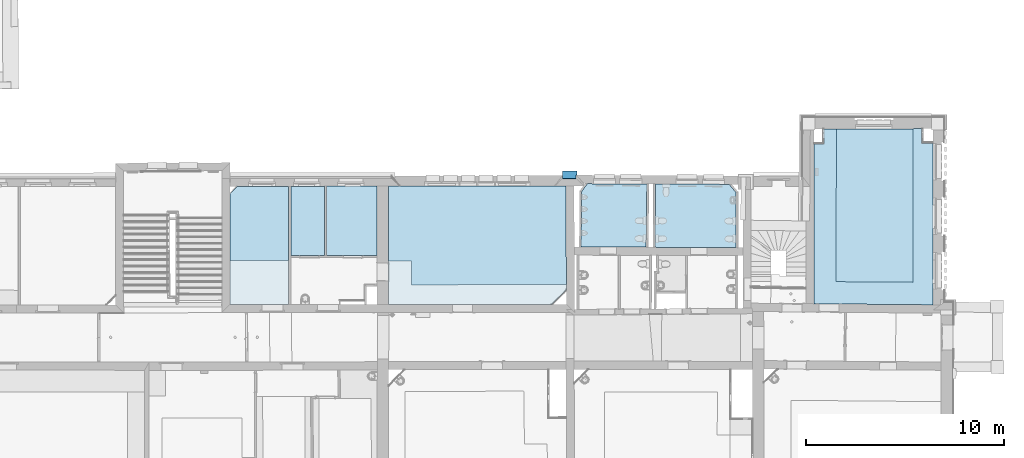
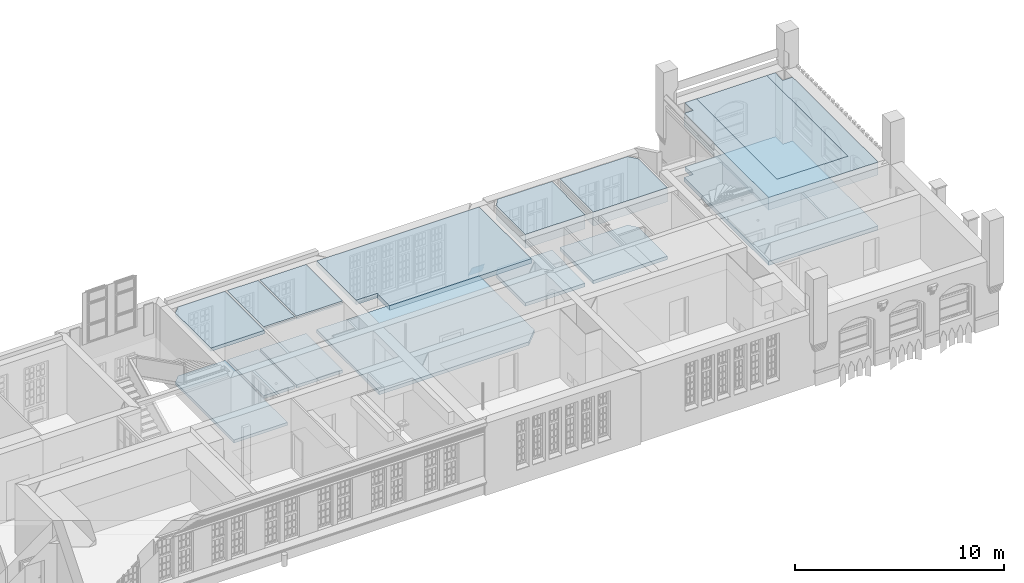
# One storey, part 4 of 90: 16 slabs.
"""IFC2X3 building model written with IfcOpenShell, lengths in metres."""

from ifc_helpers import new_model, entity, si_unit, converted_unit, derived_unit, money_unit, direction, frame, origin_with_axes, place, context, subcontext, project, spatial, polyline, outline, extrude, material, layer, layer_set, layer_usage, type_object, element, save


model = new_model("IFC2X3")

# Units and contexts
model_context = context("Model", 3, precision=1e-05, world=origin_with_axes(), true_north=direction((0.0, 1.0)))
body_context = subcontext(model_context, "Body", "Model", "MODEL_VIEW")
ifc_project = project(units=[si_unit("LENGTHUNIT", "METRE"), si_unit("AREAUNIT", "SQUARE_METRE"), si_unit("VOLUMEUNIT", "CUBIC_METRE"), converted_unit("PLANEANGLEUNIT", "DEGREE", entity("IfcPlaneAngleMeasure", 0.0174532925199), si_unit("PLANEANGLEUNIT", "RADIAN"), dimensions=[0, 0, 0, 0, 0, 0, 0]), money_unit("EUR"), converted_unit("TIMEUNIT", "Year", entity("IfcTimeMeasure", 31556926.0), si_unit("TIMEUNIT", "SECOND"), dimensions=[0, 0, 1, 0, 0, 0, 0]), si_unit("MASSUNIT", "GRAM", prefix="KILO"), si_unit("THERMODYNAMICTEMPERATUREUNIT", "DEGREE_CELSIUS"), si_unit("LUMINOUSINTENSITYUNIT", "LUMEN"), si_unit("ENERGYUNIT", "JOULE", prefix="MEGA"), derived_unit("THERMALCONDUCTANCEUNIT", [(si_unit("POWERUNIT", "WATT"), 1), (si_unit("LENGTHUNIT", "METRE"), -1), (si_unit("THERMODYNAMICTEMPERATUREUNIT", "KELVIN"), -1)]), derived_unit("SPECIFICHEATCAPACITYUNIT", [(si_unit("ENERGYUNIT", "JOULE"), 1), (si_unit("MASSUNIT", "GRAM", prefix="KILO"), -1), (si_unit("THERMODYNAMICTEMPERATUREUNIT", "KELVIN"), -1)]), derived_unit("MASSDENSITYUNIT", [(si_unit("MASSUNIT", "GRAM", prefix="KILO"), 1), (si_unit("VOLUMEUNIT", "CUBIC_METRE"), -1)])], contexts=[model_context])

# Site, building, storey
site_placement = place(None, origin_with_axes())
site = spatial("IfcSite", under=ifc_project, at=site_placement, Name="Gelände", CompositionType="ELEMENT")
building_placement = place(site_placement, origin_with_axes())
building = spatial("IfcBuilding", under=site, at=building_placement, Name="Gebäude", CompositionType="ELEMENT")
storey_placement = place(building_placement, frame((0.0, 0.0, 3.7), z_axis=(0.0, 0.0, 1.0), x_axis=(1.0, 0.0, 0.0)))
storey = spatial("IfcBuildingStorey", under=building, at=storey_placement, Name="1.OBERGESCHOSS", CompositionType="ELEMENT", Elevation=3.7)

# Slabs
ifc_material_1 = material(Name="05_ALLGEMEIN - TRAGENDE BAUTEILE")
ifc_layer_1 = layer(ifc_material_1, 0.17, ventilated="UNKNOWN")
ifc_layer_set_1 = layer_set([ifc_layer_1], Name="05_ALLGEMEIN - TRAGENDE BAUTEILE 0.17")
ifc_layer_usage_1 = layer_usage(ifc_layer_set_1, "AXIS3", "NEGATIVE", 0.17)
slab_type_1 = type_object("IfcSlabType", Name="05_ALLGEMEIN - TRAGENDE BAUTEILE 170", PredefinedType="NOTDEFINED")
slab_1_placement = place(storey_placement, frame((-4.46515546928, 19.6908650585, 0.07), z_axis=(0.0, 0.0, 1.0), x_axis=(1.0, 0.0, 0.0)))
element("IfcSlab", 1, at=slab_1_placement, inside=storey, type_object=slab_type_1, material=ifc_layer_usage_1, Name="Belag-020", PredefinedType="NOTDEFINED", context=body_context, shape_type="SweptSolid", body=[
    extrude(outline(polyline([(0.0, 0.0), (2.95986582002, 0.000861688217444), (2.95854261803, 5.97446660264), (0.366702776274, 5.97085052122), (0.00247306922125, 5.60889197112), (0.0, 0.0)])), frame((0.0, 0.0, -0.17), z_axis=(0.0, 0.0, 1.0), x_axis=(1.0, 0.0, 0.0)), (0.0, 0.0, 1.0), 0.17),
])
ifc_layer_usage_2 = layer_usage(ifc_layer_set_1, "AXIS3", "NEGATIVE", 0.17)
slab_2_placement = place(storey_placement, frame((0.319795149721, 25.6678798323, 0.07), z_axis=(0.0, 0.0, 1.0), x_axis=(1.0, 0.0, 0.0)))
element("IfcSlab", 2, at=slab_2_placement, inside=storey, type_object=slab_type_1, material=ifc_layer_usage_2, Name="Belag-020", PredefinedType="NOTDEFINED", context=body_context, shape_type="SweptSolid", body=[
    extrude(outline(polyline([(0.0, 0.0), (-1.69961350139, -0.00237127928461), (-1.69884021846, -3.49345396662), (0.00280254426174, -3.50044449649), (0.0, 0.0)])), frame((0.0, 0.0, -0.17), z_axis=(0.0, 0.0, 1.0), x_axis=(1.0, 0.0, 0.0)), (0.0, 0.0, 1.0), 0.17),
])
ifc_layer_usage_3 = layer_usage(ifc_layer_set_1, "AXIS3", "NEGATIVE", 0.17)
slab_3_placement = place(storey_placement, frame((2.96848524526, 25.6715752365, 0.07), z_axis=(0.0, 0.0, 1.0), x_axis=(1.0, 0.0, 0.0)))
element("IfcSlab", 3, at=slab_3_placement, inside=storey, type_object=slab_type_1, material=ifc_layer_usage_3, Name="Belag-021", PredefinedType="NOTDEFINED", context=body_context, shape_type="SweptSolid", body=[
    extrude(outline(polyline([(0.0, 0.0), (-2.54869018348, -0.0035558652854), (-2.54588719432, -3.50455070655), (-0.0022443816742, -3.51500025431), (0.0, 0.0)])), frame((0.0, 0.0, -0.17), z_axis=(0.0, 0.0, 1.0), x_axis=(1.0, 0.0, 0.0)), (0.0, 0.0, 1.0), 0.17),
])
ifc_layer_2 = layer(ifc_material_1, 0.2, ventilated="UNKNOWN")
ifc_layer_set_2 = layer_set([ifc_layer_2], Name="05_ALLGEMEIN - TRAGENDE BAUTEILE 0.2")
ifc_layer_usage_4 = layer_usage(ifc_layer_set_2, "AXIS3", "NEGATIVE", 0.2)
slab_type_2 = type_object("IfcSlabType", Name="05_ALLGEMEIN - TRAGENDE BAUTEILE 200", PredefinedType="NOTDEFINED")
slab_4_placement = place(storey_placement, frame((3.55848592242, 25.6723984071, 0.1), z_axis=(0.0, 0.0, 1.0), x_axis=(1.0, 0.0, 0.0)))
element("IfcSlab", 4, at=slab_4_placement, inside=storey, type_object=slab_type_2, material=ifc_layer_usage_4, Name="Belag-030", PredefinedType="NOTDEFINED", context=body_context, shape_type="SweptSolid", body=[
    extrude(outline(polyline([(0.0, 0.0), (-0.00381782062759, -5.97919859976), (8.26676036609, -5.97679088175), (8.99830300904, -5.23943746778), (8.96896032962, 0.0132323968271), (8.39786452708, 0.00934868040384), (8.39786422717, 0.00937935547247), (0.572049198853, -0.00366691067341), (0.568613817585, 0.000793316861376), (0.0, 0.0)])), frame((0.0, 0.0, -0.2), z_axis=(0.0, 0.0, 1.0), x_axis=(1.0, 0.0, 0.0)), (0.0, 0.0, 1.0), 0.2),
])
ifc_layer_usage_5 = layer_usage(ifc_layer_set_2, "AXIS3", "NEGATIVE", 0.2)
slab_5_placement = place(storey_placement, frame((13.3111372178, 25.3829134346, 0.1), z_axis=(0.0, 0.0, 1.0), x_axis=(1.0, 0.0, 0.0)))
element("IfcSlab", 5, at=slab_5_placement, inside=storey, type_object=slab_type_2, material=ifc_layer_usage_5, Name="Belag-031", PredefinedType="NOTDEFINED", context=body_context, shape_type="SweptSolid", body=[
    extrude(outline(polyline([(0.0, 0.0), (-0.00732725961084, -2.78986588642), (3.28042995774, -2.79998548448), (3.31349152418, 0.400551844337), (0.300609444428, 0.412388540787), (0.0, 0.0)])), frame((0.0, 0.0, -0.2), z_axis=(0.0, 0.0, 1.0), x_axis=(1.0, 0.0, 0.0)), (0.0, 0.0, 1.0), 0.2),
])
ifc_layer_usage_6 = layer_usage(ifc_layer_set_2, "AXIS3", "NEGATIVE", 0.2)
slab_6_placement = place(storey_placement, frame((17.0550415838, 25.7817743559, 0.1), z_axis=(0.0, 0.0, 1.0), x_axis=(1.0, 0.0, 0.0)))
element("IfcSlab", 6, at=slab_6_placement, inside=storey, type_object=slab_type_2, material=ifc_layer_usage_6, Name="Belag-032", PredefinedType="NOTDEFINED", context=body_context, shape_type="SweptSolid", body=[
    extrude(outline(polyline([(0.0, 0.0), (-0.00872975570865, -3.20024606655), (4.08985445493, -3.21286139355), (4.08406228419, -0.431614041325), (3.73553140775, -0.0146757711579), (0.0, 0.0)])), frame((0.0, 0.0, -0.2), z_axis=(0.0, 0.0, 1.0), x_axis=(1.0, 0.0, 0.0)), (0.0, 0.0, 1.0), 0.2),
])
ifc_layer_usage_7 = layer_usage(ifc_layer_set_2, "AXIS3", "NEGATIVE", 0.2)
slab_7_placement = place(storey_placement, frame((-1.50577993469, 21.9051238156, 3.9), z_axis=(0.0, 0.0, 1.0), x_axis=(1.0, 0.0, 0.0)))
element("IfcSlab", 7, at=slab_7_placement, inside=storey, type_object=slab_type_2, material=ifc_layer_usage_7, Name="Belag-036", PredefinedType="NOTDEFINED", context=body_context, shape_type="SweptSolid", body=[
    extrude(outline(polyline([(0.0, 0.0), (-0.000832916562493, 3.76020784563), (-2.59267275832, 3.75659176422), (-2.95690246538, 3.39463321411), (-2.95839953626, -0.000701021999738), (0.0, 0.0)])), origin_with_axes(), (0.0, 0.0, 1.0), 0.2),
])
ifc_layer_3 = layer(ifc_material_1, 0.24, ventilated="UNKNOWN")
ifc_layer_set_3 = layer_set([ifc_layer_3], Name="05_ALLGEMEIN - TRAGENDE BAUTEILE 0.24")
ifc_layer_usage_8 = layer_usage(ifc_layer_set_3, "AXIS3", "NEGATIVE", 0.24)
slab_type_3 = type_object("IfcSlabType", Name="05_ALLGEMEIN - TRAGENDE BAUTEILE 240", PredefinedType="NOTDEFINED")
slab_8_placement = place(storey_placement, frame((25.08305336, 27.8132269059, 0.14), z_axis=(0.0, 0.0, 1.0), x_axis=(1.0, 0.0, 0.0)))
element("IfcSlab", 8, at=slab_8_placement, inside=storey, type_object=slab_type_3, material=ifc_layer_usage_8, Name="Belag-032", PredefinedType="NOTDEFINED", context=body_context, shape_type="SweptSolid", body=[
    extrude(outline(polyline([(0.0, 0.0), (-0.00119436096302, -8.09106549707), (6.01409116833, -8.14649460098), (6.0113326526, 0.0401447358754), (5.46854332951, 0.0391183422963), (5.47709758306, 0.764248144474), (0.485790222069, 0.760557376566), (0.49749323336, 0.00509160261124), (0.0, 0.0)])), frame((0.0, 0.0, -0.24), z_axis=(0.0, 0.0, 1.0), x_axis=(1.0, 0.0, 0.0)), (0.0, 0.0, 1.0), 0.24),
])
ifc_layer_4 = layer(ifc_material_1, 0.19, ventilated="UNKNOWN")
ifc_layer_set_4 = layer_set([ifc_layer_4], Name="05_ALLGEMEIN - TRAGENDE BAUTEILE 0.19")
ifc_layer_usage_9 = layer_usage(ifc_layer_set_4, "AXIS3", "NEGATIVE", 0.19)
slab_type_4 = type_object("IfcSlabType", Name="05_ALLGEMEIN - TRAGENDE BAUTEILE 190", PredefinedType="NOTDEFINED")
slab_9_placement = place(storey_placement, frame((2.96848524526, 25.6715752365, 3.91), z_axis=(0.0, 0.0, 1.0), x_axis=(1.0, 0.0, 0.0)))
element("IfcSlab", 9, at=slab_9_placement, inside=storey, type_object=slab_type_4, material=ifc_layer_usage_9, Name="Belag-034", PredefinedType="NOTDEFINED", context=body_context, shape_type="SweptSolid", body=[
    extrude(outline(polyline([(0.0, 0.0), (-2.54869018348, -0.0035558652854), (-2.54588719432, -3.50455070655), (-0.0022443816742, -3.51500025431), (0.0, 0.0)])), origin_with_axes(), (0.0, 0.0, 1.0), 0.19),
])
ifc_layer_usage_10 = layer_usage(ifc_layer_set_4, "AXIS3", "NEGATIVE", 0.19)
slab_10_placement = place(storey_placement, frame((0.319795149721, 25.6678798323, 3.91), z_axis=(0.0, 0.0, 1.0), x_axis=(1.0, 0.0, 0.0)))
element("IfcSlab", 10, at=slab_10_placement, inside=storey, type_object=slab_type_4, material=ifc_layer_usage_10, Name="Belag-035", PredefinedType="NOTDEFINED", context=body_context, shape_type="SweptSolid", body=[
    extrude(outline(polyline([(0.0, 0.0), (-1.69961350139, -0.00237127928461), (-1.69884021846, -3.49345396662), (0.00280254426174, -3.50044449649), (0.0, 0.0)])), origin_with_axes(), (0.0, 0.0, 1.0), 0.19),
])
ifc_layer_5 = layer(ifc_material_1, 0.27, ventilated="UNKNOWN")
ifc_layer_set_5 = layer_set([ifc_layer_5], Name="05_ALLGEMEIN - TRAGENDE BAUTEILE 0.27")
ifc_layer_usage_11 = layer_usage(ifc_layer_set_5, "AXIS3", "NEGATIVE", 0.27)
slab_type_5 = type_object("IfcSlabType", Name="05_ALLGEMEIN - TRAGENDE BAUTEILE 270", PredefinedType="NOTDEFINED")
slab_11_placement = place(storey_placement, frame((3.55606731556, 21.8845749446, 3.83), z_axis=(0.0, 0.0, 1.0), x_axis=(1.0, 0.0, 0.0)))
element("IfcSlab", 11, at=slab_11_placement, inside=storey, type_object=slab_type_5, material=ifc_layer_usage_11, Name="Belag-034", PredefinedType="NOTDEFINED", context=body_context, shape_type="SweptSolid", body=[
    extrude(outline(polyline([(0.0, 0.0), (1.16245060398, -0.00208189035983), (1.1526027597, -1.20674585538), (8.99923760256, -1.18595900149), (8.97137889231, 3.80105587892), (8.40028317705, 3.79717209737), (8.40028290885, 3.79720280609), (0.574467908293, 3.78415656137), (0.571032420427, 3.78861683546), (0.00241861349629, 3.78782350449), (0.0, 0.0)])), origin_with_axes(), (0.0, 0.0, 1.0), 0.27),
])
ifc_layer_6 = layer(ifc_material_1, 0.75, ventilated="UNKNOWN")
ifc_layer_set_6 = layer_set([ifc_layer_6], Name="05_ALLGEMEIN - TRAGENDE BAUTEILE 0.75")
ifc_layer_usage_12 = layer_usage(ifc_layer_set_6, "AXIS3", "NEGATIVE", 0.75)
slab_type_6 = type_object("IfcSlabType", Name="05_ALLGEMEIN - TRAGENDE BAUTEILE 750", PredefinedType="NOTDEFINED")
slab_12_placement = place(storey_placement, frame((25.0818589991, 19.7221614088, 3.12), z_axis=(0.0, 0.0, 1.0), x_axis=(1.0, 0.0, 0.0)))
element("IfcSlab", 12, at=slab_12_placement, inside=storey, type_object=slab_type_6, material=ifc_layer_usage_12, Name="Belag-039", PredefinedType="NOTDEFINED", context=body_context, shape_type="SweptSolid", body=[
    extrude(outline(polyline([(0.0, 0.0), (6.0152855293, -0.0554291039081), (6.01252701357, 8.13121023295), (5.46973769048, 8.13018383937), (5.47829194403, 8.85531364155), (5.01276124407, 8.85496934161), (5.01539335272, 1.08806642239), (1.11083709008, 1.11733205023), (1.13690642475, 8.85210340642), (0.486984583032, 8.85162287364), (0.498687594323, 8.09615709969), (0.00119436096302, 8.09106549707), (0.0, 0.0)])), origin_with_axes(), (0.0, 0.0, 1.0), 0.75),
])
ifc_layer_7 = layer(ifc_material_1, 0.82, ventilated="UNKNOWN")
ifc_layer_set_7 = layer_set([ifc_layer_7], Name="05_ALLGEMEIN - TRAGENDE BAUTEILE 0.82")
ifc_layer_usage_13 = layer_usage(ifc_layer_set_7, "AXIS3", "NEGATIVE", 0.82)
slab_type_7 = type_object("IfcSlabType", Name="05_ALLGEMEIN - TRAGENDE BAUTEILE 820", PredefinedType="NOTDEFINED")
slab_13_placement = place(storey_placement, frame((17.0550415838, 25.7817743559, 3.28), z_axis=(0.0, 0.0, 1.0), x_axis=(1.0, 0.0, 0.0)))
element("IfcSlab", 13, at=slab_13_placement, inside=storey, type_object=slab_type_7, material=ifc_layer_usage_13, Name="Belag-039", PredefinedType="NOTDEFINED", context=body_context, shape_type="SweptSolid", body=[
    extrude(outline(polyline([(0.0, 0.0), (-0.00872975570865, -3.20024606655), (4.08985445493, -3.21286139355), (4.08406228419, -0.431614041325), (3.73553140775, -0.0146757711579), (0.0, 0.0)])), origin_with_axes(), (0.0, 0.0, 1.0), 0.82),
])
ifc_layer_usage_14 = layer_usage(ifc_layer_set_7, "AXIS3", "NEGATIVE", 0.82)
slab_14_placement = place(storey_placement, frame((13.3038099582, 22.5930475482, 3.28), z_axis=(0.0, 0.0, 1.0), x_axis=(1.0, 0.0, 0.0)))
element("IfcSlab", 14, at=slab_14_placement, inside=storey, type_object=slab_type_7, material=ifc_layer_usage_14, Name="Belag-040", PredefinedType="NOTDEFINED", context=body_context, shape_type="SweptSolid", body=[
    extrude(outline(polyline([(0.0, 0.0), (3.28775721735, -0.0101195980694), (3.32081878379, 3.19041773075), (0.307936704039, 3.2022544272), (0.00732725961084, 2.78986588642), (0.0, 0.0)])), origin_with_axes(), (0.0, 0.0, 1.0), 0.82),
])
ifc_layer_8 = layer(ifc_material_1, 0.38, ventilated="UNKNOWN")
ifc_layer_set_8 = layer_set([ifc_layer_8], Name="05_ALLGEMEIN - TRAGENDE BAUTEILE 0.38")
ifc_layer_usage_15 = layer_usage(ifc_layer_set_8, "AXIS3", "NEGATIVE", 0.38)
slab_type_8 = type_object("IfcSlabType", Name="05_ALLGEMEIN - TRAGENDE BAUTEILE 380", PredefinedType="NOTDEFINED")
slab_15_placement = place(storey_placement, frame((26.2187653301, 28.5742648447, 3.49), z_axis=(0.0, 0.0, 1.0), x_axis=(1.0, 0.0, 0.0)))
element("IfcSlab", 15, at=slab_15_placement, inside=storey, type_object=slab_type_8, material=ifc_layer_usage_15, Name="Belag-039", PredefinedType="NOTDEFINED", context=body_context, shape_type="SweptSolid", body=[
    extrude(outline(polyline([(0.0, 0.0), (-0.026069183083, -7.73477142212), (3.87848699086, -7.7640370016), (3.87585492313, 0.00286597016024), (0.0, 0.0)])), origin_with_axes(), (0.0, 0.0, 1.0), 0.38),
])
ifc_material_2 = material(Name="29_Dach, Dachziegel rot")
ifc_layer_9 = layer(ifc_material_2, 0.04, ventilated="UNKNOWN")
ifc_layer_set_9 = layer_set([ifc_layer_9], Name="29_Dach, Dachziegel rot 0.04")
ifc_layer_usage_16 = layer_usage(ifc_layer_set_9, "AXIS3", "NEGATIVE", 0.04)
slab_type_9 = type_object("IfcSlabType", Name="29_Dach, Dachziegel rot 40", PredefinedType="ROOF")
slab_16_placement = place(storey_placement, frame((12.394961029, 26.433944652, -0.354110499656), z_axis=(0.0, 0.0, 1.0), x_axis=(0.999990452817, -0.00436969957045, 0.0)))
element("IfcSlab", 16, at=slab_16_placement, inside=storey, type_object=slab_type_9, material=ifc_layer_usage_16, Name="Dach-007", PredefinedType="ROOF", context=body_context, shape_type="SweptSolid", body=[
    extrude(outline(polyline([(-0.043314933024, -0.0732778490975), (-0.0405482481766, -0.827665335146), (0.652178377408, -0.811834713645), (0.651486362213, -0.487851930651), (0.70422728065, -0.47928463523), (0.69228564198, -0.0746535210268), (-0.043314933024, -0.0732778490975)])), frame((0.0, 0.0, 0.0), z_axis=(0.0, 0.872391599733, 0.488807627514), x_axis=(1.0, 0.0, 0.0)), (0.0, 0.0, 1.0), 0.04),
])

save(model, "model.ifc")
